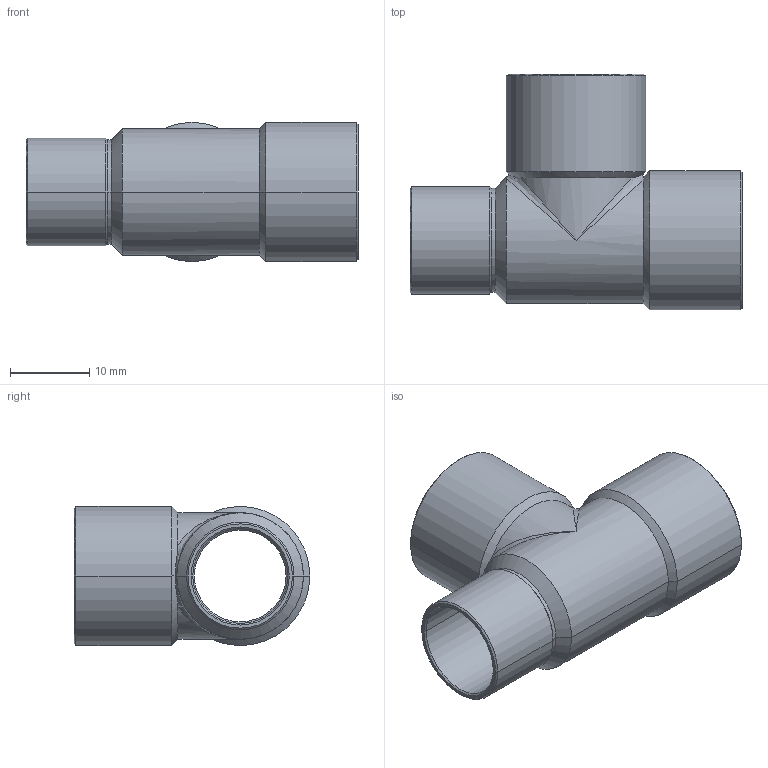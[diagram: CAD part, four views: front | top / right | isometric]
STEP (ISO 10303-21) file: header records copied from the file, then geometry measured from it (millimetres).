
FILE_DESCRIPTION((''),'2;1');
FILE_NAME('P:\Bouwmaten\z-maattekeningen 3D\5000\5130\5130161612.stp','2005-10-26T11:53:12',('Kris'),(''),'Autodesk Inventor 8','Autodesk Inventor 8','');
FILE_SCHEMA(('AUTOMOTIVE_DESIGN { 1 0 10303 214 1 1 1 1 }'));
Length unit declared in the file: millimetre
Products named in the file (1): 5130161612
Bounding box: 42 x 29.8 x 17.6 mm (x, y, z)
Volume: 2070.7 mm3; surface area: 5342.6 mm2
Topology: 1 solids, 1 shells, 59 faces, 142 edges, 76 vertices
Faces by surface type: cone 28, cylinder 24, bspline 4, plane 3
Entity records: 2147 total; most frequent: CARTESIAN_POINT 790, DIRECTION 302, ORIENTED_EDGE 268, EDGE_CURVE 134, AXIS2_PLACEMENT_3D 128, VERTEX_POINT 76, EDGE_LOOP 62, FACE_OUTER_BOUND 59
